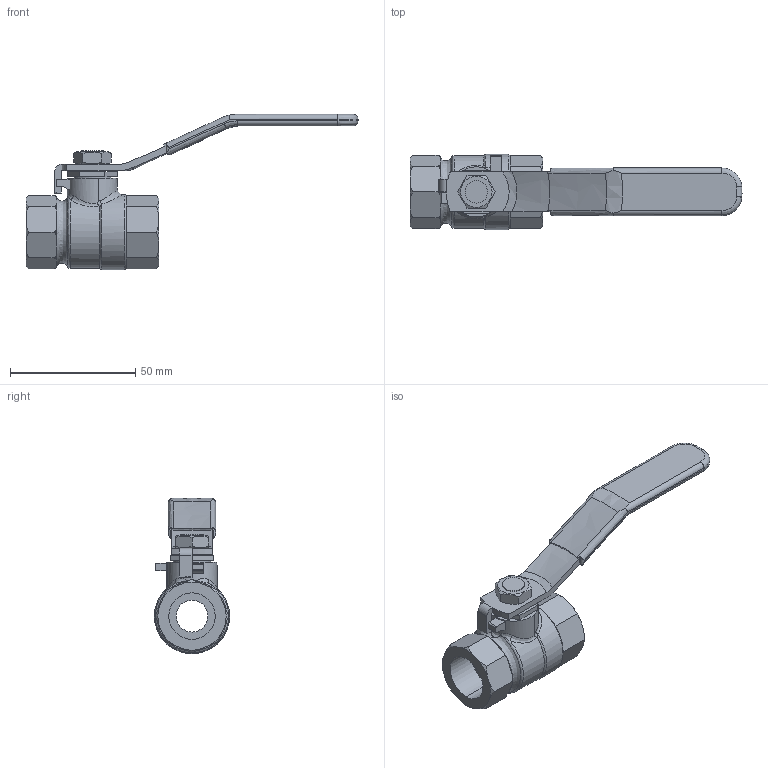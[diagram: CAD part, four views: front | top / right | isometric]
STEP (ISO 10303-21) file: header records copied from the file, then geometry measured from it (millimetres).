
FILE_DESCRIPTION( (''), '2;1');
FILE_NAME ('PC2091.14996.15A_1173.stp','2026-05-28T08:42:46',(''),(''),'spGate 21.9.4 (****-****-****-****)','','');
FILE_SCHEMA (('AUTOMOTIVE_DESIGN'));
Length unit declared in the file: millimetre
Bounding box: 132.5 x 30 x 62 mm (x, y, z)
Volume: 35569.9 mm3; surface area: 14920.6 mm2
Topology: 1 solids, 1 shells, 187 faces, 466 edges, 289 vertices
Faces by surface type: plane 80, bspline 68, cylinder 37, sphere 2
Entity records: 10874 total; most frequent: CARTESIAN_POINT 3257, ORIENTED_EDGE 928, DIRECTION 684, COLOUR_RGB 652, PRESENTATION_STYLE_ASSIGNMENT 652, STYLED_ITEM 652, EDGE_CURVE 464, DRAUGHTING_PRE_DEFINED_CURVE_FONT 464
